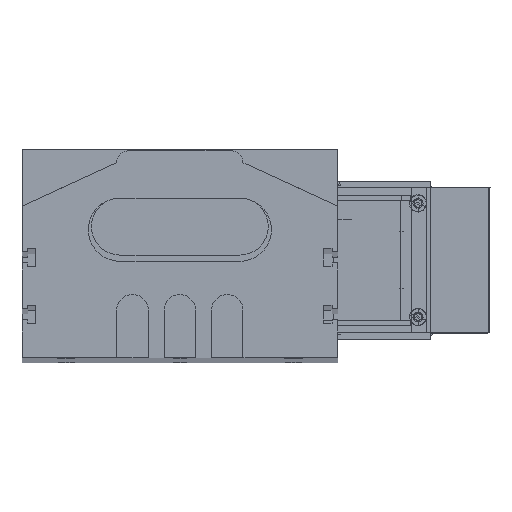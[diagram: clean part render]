
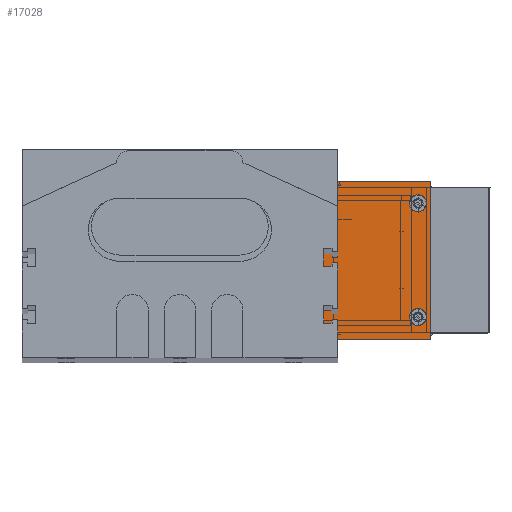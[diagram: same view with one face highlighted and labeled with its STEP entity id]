
A CAD part, top view. The second image highlights one B-rep face of the part: STEP entity #17028.
In plain terms, the highlighted planar face has unit normal (0, 0, 1) as drawn and (0, -1, 0) by its records, which use the part's own axes.
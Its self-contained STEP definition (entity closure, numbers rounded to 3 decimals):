
#213 = ORIENTED_EDGE ( 'NONE', *, *, #15891, .F. ) ;
#216 = ORIENTED_EDGE ( 'NONE', *, *, #15937, .F. ) ;
#283 = ORIENTED_EDGE ( 'NONE', *, *, #17550, .F. ) ;
#307 = ORIENTED_EDGE ( 'NONE', *, *, #15795, .F. ) ;
#310 = ORIENTED_EDGE ( 'NONE', *, *, #15946, .F. ) ;
#320 = EDGE_LOOP ( 'NONE', ( #310, #17376 ) ) ;
#329 = EDGE_CURVE ( 'NONE', #17292, #15996, #2975, .T. ) ;
#424 = ORIENTED_EDGE ( 'NONE', *, *, #15932, .F. ) ;
#2972 = DIRECTION ( 'NONE',  ( -1., 0., 0. ) ) ;
#2973 = VECTOR ( 'NONE', #2972, 1000. ) ;
#2974 = CARTESIAN_POINT ( 'NONE',  ( 37., -2., -25. ) ) ;
#2975 = LINE ( 'NONE', #2974, #2973 ) ;
#15748 = VERTEX_POINT ( 'NONE', #20902 ) ;
#15751 = VERTEX_POINT ( 'NONE', #20903 ) ;
#15795 = EDGE_CURVE ( 'NONE', #15751, #15748, #20967, .T. ) ;
#15874 = VERTEX_POINT ( 'NONE', #21202 ) ;
#15878 = VERTEX_POINT ( 'NONE', #21193 ) ;
#15880 = VERTEX_POINT ( 'NONE', #21192 ) ;
#15891 = EDGE_CURVE ( 'NONE', #15880, #15905, #21181, .T. ) ;
#15902 = VERTEX_POINT ( 'NONE', #21216 ) ;
#15904 = EDGE_CURVE ( 'NONE', #15902, #15950, #21212, .T. ) ;
#15905 = VERTEX_POINT ( 'NONE', #21220 ) ;
#15911 = EDGE_CURVE ( 'NONE', #15874, #15878, #21270, .T. ) ;
#15932 = EDGE_CURVE ( 'NONE', #15905, #15880, #21342, .T. ) ;
#15937 = EDGE_CURVE ( 'NONE', #15950, #15902, #21363, .T. ) ;
#15946 = EDGE_CURVE ( 'NONE', #15878, #15874, #21371, .T. ) ;
#15950 = VERTEX_POINT ( 'NONE', #21420 ) ;
#15996 = VERTEX_POINT ( 'NONE', #21523 ) ;
#16018 = EDGE_LOOP ( 'NONE', ( #283, #307 ) ) ;
#16355 = ORIENTED_EDGE ( 'NONE', *, *, #329, .F. ) ;
#16419 = EDGE_CURVE ( 'NONE', #17099, #17308, #21586, .T. ) ;
#16435 = EDGE_LOOP ( 'NONE', ( #213, #424 ) ) ;
#16533 = ORIENTED_EDGE ( 'NONE', *, *, #16543, .F. ) ;
#16543 = EDGE_CURVE ( 'NONE', #15996, #17099, #21566, .T. ) ;
#16587 = ORIENTED_EDGE ( 'NONE', *, *, #19114, .F. ) ;
#16960 = ORIENTED_EDGE ( 'NONE', *, *, #16419, .F. ) ;
#17007 = EDGE_LOOP ( 'NONE', ( #16587, #16960, #16533, #16355 ) ) ;
#17028 = ADVANCED_FACE ( 'NONE', ( #21632, #21624, #21637, #21625, #21643 ), #21634, .F. ) ;
#17099 = VERTEX_POINT ( 'NONE', #21684 ) ;
#17292 = VERTEX_POINT ( 'NONE', #21712 ) ;
#17308 = VERTEX_POINT ( 'NONE', #21722 ) ;
#17376 = ORIENTED_EDGE ( 'NONE', *, *, #15911, .F. ) ;
#17550 = EDGE_CURVE ( 'NONE', #15748, #15751, #21739, .T. ) ;
#17638 = EDGE_LOOP ( 'NONE', ( #19165, #216 ) ) ;
#19114 = EDGE_CURVE ( 'NONE', #17308, #17292, #22148, .T. ) ;
#19165 = ORIENTED_EDGE ( 'NONE', *, *, #15904, .F. ) ;
#20902 = CARTESIAN_POINT ( 'NONE',  ( -39., -2., 7.25 ) ) ;
#20903 = CARTESIAN_POINT ( 'NONE',  ( -39., -2., 12.75 ) ) ;
#20967 = CIRCLE ( 'NONE', #21022, 2.75 ) ;
#21011 = DIRECTION ( 'NONE',  ( 0., 0., -1. ) ) ;
#21012 = DIRECTION ( 'NONE',  ( 0., -1., 0. ) ) ;
#21017 = CARTESIAN_POINT ( 'NONE',  ( -39., -2., 10. ) ) ;
#21022 = AXIS2_PLACEMENT_3D ( 'NONE', #21017, #21012, #21011 ) ;
#21180 = AXIS2_PLACEMENT_3D ( 'NONE', #21201, #21235, #21229 ) ;
#21181 = CIRCLE ( 'NONE', #21180, 2.75 ) ;
#21192 = CARTESIAN_POINT ( 'NONE',  ( 20.2, -2., -20.75 ) ) ;
#21193 = CARTESIAN_POINT ( 'NONE',  ( -39., -2., -12.75 ) ) ;
#21201 = CARTESIAN_POINT ( 'NONE',  ( 20.2, -2., -18. ) ) ;
#21202 = CARTESIAN_POINT ( 'NONE',  ( -39., -2., -7.25 ) ) ;
#21210 = DIRECTION ( 'NONE',  ( 0., 0., -1. ) ) ;
#21211 = AXIS2_PLACEMENT_3D ( 'NONE', #21225, #21218, #21210 ) ;
#21212 = CIRCLE ( 'NONE', #21211, 2.75 ) ;
#21216 = CARTESIAN_POINT ( 'NONE',  ( 20.2, -2., 15.25 ) ) ;
#21218 = DIRECTION ( 'NONE',  ( 0., -1., 0. ) ) ;
#21220 = CARTESIAN_POINT ( 'NONE',  ( 20.2, -2., -15.25 ) ) ;
#21225 = CARTESIAN_POINT ( 'NONE',  ( 20.2, -2., 18. ) ) ;
#21229 = DIRECTION ( 'NONE',  ( 0., 0., -1. ) ) ;
#21235 = DIRECTION ( 'NONE',  ( 0., -1., 0. ) ) ;
#21257 = DIRECTION ( 'NONE',  ( 0., 0., -1. ) ) ;
#21258 = DIRECTION ( 'NONE',  ( 0., -1., 0. ) ) ;
#21259 = CARTESIAN_POINT ( 'NONE',  ( -39., -2., -10. ) ) ;
#21260 = AXIS2_PLACEMENT_3D ( 'NONE', #21259, #21258, #21257 ) ;
#21270 = CIRCLE ( 'NONE', #21260, 2.75 ) ;
#21328 = CARTESIAN_POINT ( 'NONE',  ( 20.2, -2., 18. ) ) ;
#21331 = DIRECTION ( 'NONE',  ( 0., 0., -1. ) ) ;
#21332 = DIRECTION ( 'NONE',  ( 0., -1., 0. ) ) ;
#21333 = CARTESIAN_POINT ( 'NONE',  ( 20.2, -2., -18. ) ) ;
#21334 = AXIS2_PLACEMENT_3D ( 'NONE', #21333, #21332, #21331 ) ;
#21342 = CIRCLE ( 'NONE', #21334, 2.75 ) ;
#21346 = AXIS2_PLACEMENT_3D ( 'NONE', #21328, #21391, #21387 ) ;
#21363 = CIRCLE ( 'NONE', #21346, 2.75 ) ;
#21371 = CIRCLE ( 'NONE', #21430, 2.75 ) ;
#21387 = DIRECTION ( 'NONE',  ( 0., 0., -1. ) ) ;
#21391 = DIRECTION ( 'NONE',  ( 0., -1., 0. ) ) ;
#21420 = CARTESIAN_POINT ( 'NONE',  ( 20.2, -2., 20.75 ) ) ;
#21427 = DIRECTION ( 'NONE',  ( 0., 0., -1. ) ) ;
#21428 = DIRECTION ( 'NONE',  ( 0., -1., 0. ) ) ;
#21429 = CARTESIAN_POINT ( 'NONE',  ( -39., -2., -10. ) ) ;
#21430 = AXIS2_PLACEMENT_3D ( 'NONE', #21429, #21428, #21427 ) ;
#21523 = CARTESIAN_POINT ( 'NONE',  ( -42., -2., -25. ) ) ;
#21566 = LINE ( 'NONE', #21616, #21615 ) ;
#21568 = DIRECTION ( 'NONE',  ( 1., 0., 0. ) ) ;
#21569 = VECTOR ( 'NONE', #21568, 1000. ) ;
#21585 = CARTESIAN_POINT ( 'NONE',  ( -37., -2., 25. ) ) ;
#21586 = LINE ( 'NONE', #21585, #21569 ) ;
#21614 = DIRECTION ( 'NONE',  ( 0., 0., 1. ) ) ;
#21615 = VECTOR ( 'NONE', #21614, 1000. ) ;
#21616 = CARTESIAN_POINT ( 'NONE',  ( -42., -2., -25. ) ) ;
#21624 = FACE_BOUND ( 'NONE', #16018, .T. ) ;
#21625 = FACE_BOUND ( 'NONE', #16435, .T. ) ;
#21632 = FACE_OUTER_BOUND ( 'NONE', #17007, .T. ) ;
#21634 = PLANE ( 'NONE',  #21688 ) ;
#21637 = FACE_BOUND ( 'NONE', #320, .T. ) ;
#21643 = FACE_BOUND ( 'NONE', #17638, .T. ) ;
#21684 = CARTESIAN_POINT ( 'NONE',  ( -42., -2., 25. ) ) ;
#21685 = DIRECTION ( 'NONE',  ( 0., 0., 1. ) ) ;
#21686 = DIRECTION ( 'NONE',  ( 0., 1., 0. ) ) ;
#21687 = CARTESIAN_POINT ( 'NONE',  ( 37., -2., -25. ) ) ;
#21688 = AXIS2_PLACEMENT_3D ( 'NONE', #21687, #21686, #21685 ) ;
#21712 = CARTESIAN_POINT ( 'NONE',  ( 24., -2., -25. ) ) ;
#21722 = CARTESIAN_POINT ( 'NONE',  ( 24., -2., 25. ) ) ;
#21739 = CIRCLE ( 'NONE', #21859, 2.75 ) ;
#21833 = DIRECTION ( 'NONE',  ( 0., -1., 0. ) ) ;
#21858 = DIRECTION ( 'NONE',  ( 0., 0., -1. ) ) ;
#21859 = AXIS2_PLACEMENT_3D ( 'NONE', #21867, #21833, #21858 ) ;
#21867 = CARTESIAN_POINT ( 'NONE',  ( -39., -2., 10. ) ) ;
#22137 = DIRECTION ( 'NONE',  ( 0., 0., -1. ) ) ;
#22146 = VECTOR ( 'NONE', #22137, 1000. ) ;
#22147 = CARTESIAN_POINT ( 'NONE',  ( 24., -2., 25. ) ) ;
#22148 = LINE ( 'NONE', #22147, #22146 ) ;
